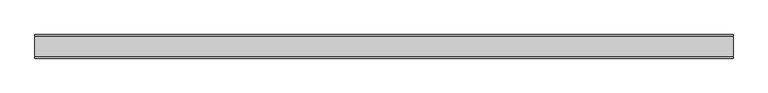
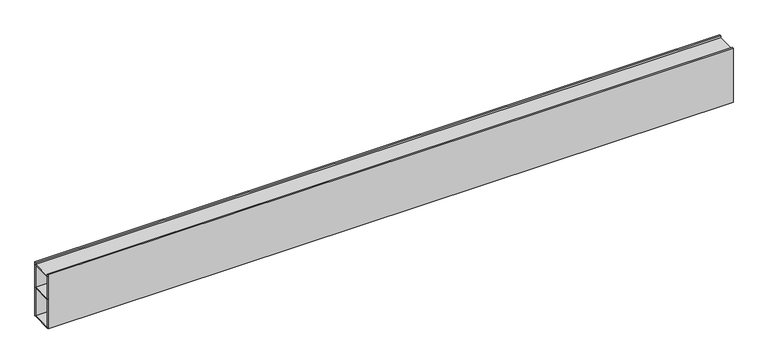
"""IFC4 building model written with IfcOpenShell, lengths in millimetres: light fixture geometry, Lighting-Recessed-Betacalco-Block-Straight : BLKR-DT1-PW01-TR01-SL04-EP01-LP020-CR80-CTA40."""

import ifcopenshell
import ifcopenshell.guid

model = None  # the IFC model being written
_history = None  # IfcOwnerHistory: only IFC2X3 demands one
_inside = {}  # id of a spatial element -> (the spatial element, [elements in it])
_under = {}  # id of a project, library or spatial element -> (it, [spatial elements below it])
_declared = {}  # id of a project -> (the project, [libraries it declares])
_typed = {}  # id of a type object -> (the type object, [elements of that type])
_made_of = {}  # id of a material, layer set ... -> (it, [elements and type objects made of it])


def new_model(schema):
    """Start an empty IFC model of exactly this schema.

    Asked for "IFC4X3", IfcOpenShell would pick the latest addendum, in which some entities
    have other attributes; the version numbers below select the first issue.
    IFC2X3 requires an IfcOwnerHistory on every rooted entity: one is made here for all.
    """
    global model, _history
    if schema == "IFC4X3":
        model = ifcopenshell.file(schema_version=(4, 3, 0, 0))
    else:
        model = ifcopenshell.file(schema=schema)
    _inside.clear()
    _under.clear()
    _declared.clear()
    _typed.clear()
    _made_of.clear()
    _history = None
    if model.schema == "IFC2X3":
        org = make("IfcOrganization", Name="unknown")
        user = make(
            "IfcPersonAndOrganization",
            ThePerson=make("IfcPerson", FamilyName="unknown"),
            TheOrganization=org,
        )
        app = make(
            "IfcApplication",
            ApplicationDeveloper=org,
            Version="unknown",
            ApplicationFullName="unknown",
            ApplicationIdentifier="unknown",
        )
        _history = make(
            "IfcOwnerHistory",
            OwningUser=user,
            OwningApplication=app,
            ChangeAction="ADDED",
            CreationDate=0,
        )
    return model


def make(cls, **values):
    """One entity of the class cls with the attributes given. An attribute that is None is left unset."""
    return model.create_entity(
        cls, **{name: value for name, value in values.items() if value is not None}
    )


def rooted(cls, **values):
    """An entity with a GlobalId (a new one), such as an element, a storey or a relation."""
    return make(cls, GlobalId=ifcopenshell.guid.new(), OwnerHistory=_history, **values)


def si_unit(unit_type, name, prefix=None):
    """IfcSIUnit, for example si_unit("LENGTHUNIT", "METRE", prefix="MILLI")."""
    return make("IfcSIUnit", UnitType=unit_type, Prefix=prefix, Name=name)


def assignment(units):
    """IfcUnitAssignment: the units of a project."""
    return None if units is None else make("IfcUnitAssignment", Units=units)


def point(xyz):
    """IfcCartesianPoint."""
    return None if xyz is None else make("IfcCartesianPoint", Coordinates=xyz)


def direction(xyz):
    """IfcDirection."""
    return None if xyz is None else make("IfcDirection", DirectionRatios=xyz)


def frame(location, z_axis=None, x_axis=None):
    """IfcAxis2Placement3D, a coordinate frame: its origin and axes. An axis left out is left unset."""
    return make(
        "IfcAxis2Placement3D",
        Location=point(location),
        Axis=direction(z_axis),
        RefDirection=direction(x_axis),
    )


def origin():
    """The frame at (0, 0, 0) with its axes left unset."""
    return frame((0.0, 0.0, 0.0))


def place(relative_to, where):
    """IfcLocalPlacement: puts the frame where relative to a parent placement (None: the world)."""
    return make(
        "IfcLocalPlacement", PlacementRelTo=relative_to, RelativePlacement=where
    )


def context(
    kind, dimensions, precision=None, world=None, true_north=None, identifier=None
):
    """IfcGeometricRepresentationContext, for example the 3D "Model" context."""
    return make(
        "IfcGeometricRepresentationContext",
        ContextIdentifier=identifier,
        ContextType=kind,
        CoordinateSpaceDimension=dimensions,
        Precision=precision,
        WorldCoordinateSystem=world,
        TrueNorth=true_north,
    )


def project(units=None, contexts=None):
    """IfcProject with its units and contexts."""
    return rooted(
        "IfcProject",
        Name="project",
        RepresentationContexts=contexts,
        UnitsInContext=assignment(units),
    )


def spatial(cls, under=None, at=None, **own):
    """A site, building, storey or space (cls), placed at a placement, below another one or the project."""
    s = rooted(cls, ObjectPlacement=at, **own)
    if under is not None:
        _under.setdefault(under.id(), (under, []))[1].append(s)
    return s


def polyline(points):
    """IfcPolyline through the points."""
    return make("IfcPolyline", Points=[point(p) for p in points])


def outline(outer, holes=None, kind="AREA"):
    """IfcArbitraryClosedProfileDef: a profile drawn as a closed curve; with holes, ...WithVoids."""
    if holes is None:
        return make("IfcArbitraryClosedProfileDef", ProfileType=kind, OuterCurve=outer)
    return make(
        "IfcArbitraryProfileDefWithVoids",
        ProfileType=kind,
        OuterCurve=outer,
        InnerCurves=holes,
    )


def extrude(swept, where, along, depth):
    """IfcExtrudedAreaSolid: the profile swept, set in the frame where, extruded along a direction by depth."""
    return make(
        "IfcExtrudedAreaSolid",
        SweptArea=swept,
        Position=where,
        ExtrudedDirection=direction(along),
        Depth=depth,
    )


def shape(context_of_items, identifier, shape_type, items):
    """IfcShapeRepresentation: the items that make up one representation, for example the "Body"."""
    return make(
        "IfcShapeRepresentation",
        ContextOfItems=context_of_items,
        RepresentationIdentifier=identifier,
        RepresentationType=shape_type,
        Items=items,
    )


def source(mapping_origin, context_of_items, identifier, shape_type, items):
    """IfcRepresentationMap: a shape defined once, which mapped items show again and again."""
    return make(
        "IfcRepresentationMap",
        MappingOrigin=mapping_origin,
        MappedRepresentation=shape(context_of_items, identifier, shape_type, items),
    )


def transform(
    local_origin,
    x_axis=None,
    y_axis=None,
    z_axis=None,
    scale=None,
    scale2=None,
    scale3=None,
    uniform=True,
):
    """IfcCartesianTransformationOperator3D, or its non-uniform kind. x_axis, y_axis, z_axis: its Axis1, 2, 3."""
    if uniform:
        return make(
            "IfcCartesianTransformationOperator3D",
            Axis1=direction(x_axis),
            Axis2=direction(y_axis),
            LocalOrigin=point(local_origin),
            Scale=scale,
            Axis3=direction(z_axis),
        )
    return make(
        "IfcCartesianTransformationOperator3DnonUniform",
        Axis1=direction(x_axis),
        Axis2=direction(y_axis),
        LocalOrigin=point(local_origin),
        Scale=scale,
        Axis3=direction(z_axis),
        Scale2=scale2,
        Scale3=scale3,
    )


def mapped(mapping_source, mapping_target):
    """IfcMappedItem: shows the shape of a source again, moved by a transform."""
    return make(
        "IfcMappedItem", MappingSource=mapping_source, MappingTarget=mapping_target
    )


def made_of(thing, what):
    """Note that an element or type object is made of a material, layer set ...; save() writes the relation."""
    if what is not None:
        _made_of.setdefault(what.id(), (what, []))[1].append(thing)
    return thing


def element(
    cls,
    number,
    at=None,
    inside=None,
    cuts=None,
    type_object=None,
    material=None,
    context=None,
    identifier="Body",
    shape_type=None,
    held_by="IfcProductDefinitionShape",
    body=None,
    shapes=None,
    **own,
):
    """One element of the class cls, such as IfcWall. Its Tag is "e" and its number.

    at: its placement. inside: the storey or other place that contains it. cuts: it is an
    opening in that element (IfcRelVoidsElement). A single representation is given by context,
    identifier, shape_type and body (its items); several are given by shapes. held_by: the class
    of the entity that holds the representations. save() writes the other relations.
    """
    e = rooted(cls, Tag="e%d" % number, ObjectPlacement=at, **own)
    if body is not None:
        shapes = [shape(context, identifier, shape_type, body)]
    if shapes is not None:
        e.Representation = make(held_by, Representations=shapes)
    if inside is not None:
        _inside.setdefault(inside.id(), (inside, []))[1].append(e)
    if cuts is not None:
        rooted(
            "IfcRelVoidsElement", RelatingBuildingElement=cuts, RelatedOpeningElement=e
        )
    if type_object is not None:
        _typed.setdefault(type_object.id(), (type_object, []))[1].append(e)
    return made_of(e, material)


def aggregate(whole, parts):
    """IfcRelAggregates: a whole, such as a stair, and the parts it consists of."""
    return rooted("IfcRelAggregates", RelatingObject=whole, RelatedObjects=parts)


def save(model, path):
    """Write the relations noted so far, then the file.

    IfcRelAggregates (storeys below a building ...), IfcRelContainedInSpatialStructure (elements
    in a storey), IfcRelDefinesByType, IfcRelAssociatesMaterial and IfcRelDeclares: one each for
    every whole, place, type object, material and project.
    """
    for whole, parts in _under.values():
        aggregate(whole, parts)
    for where, things in _inside.values():
        rooted(
            "IfcRelContainedInSpatialStructure",
            RelatedElements=things,
            RelatingStructure=where,
        )
    for kind, things in _typed.values():
        rooted("IfcRelDefinesByType", RelatedObjects=things, RelatingType=kind)
    for what, things in _made_of.values():
        rooted("IfcRelAssociatesMaterial", RelatedObjects=things, RelatingMaterial=what)
    for by, libraries in _declared.values():
        rooted("IfcRelDeclares", RelatingContext=by, RelatedDefinitions=libraries)
    model.write(path)


def light_fixture_d5cdfcf7(model_context):
    return source(origin(), model_context, "Body", "SweptSolid", [
        extrude(outline(polyline([(609.6, 18.0975), (609.6, -18.0975), (-609.6, -18.0975), (-609.6, 18.0975), (609.6, 18.0975)])), frame((0.0, 0.0, -5.2904412), z_axis=(0.0, 0.0, 1.0), x_axis=(1.0, 0.0, 0.0)), (0.0, 0.0, 1.0), 1.5875),
        extrude(outline(polyline([(609.6, 18.0975), (609.6, -18.0975), (-609.6, -18.0975), (-609.6, 18.0975), (609.6, 18.0975)])), frame((0.0, 0.0, -47.912087), z_axis=(0.0, 0.0, 1.0), x_axis=(1.0, 0.0, 0.0)), (0.0, 0.0, 1.0), 1.5875),
        extrude(outline(polyline([(609.6, 18.0975), (609.6, -18.0975), (-609.6, -18.0975), (-609.6, 18.0975), (609.6, 18.0975)])), frame((0.0, 0.0, -101.6), z_axis=(0.0, 0.0, 1.0), x_axis=(1.0, 0.0, 0.0)), (0.0, 0.0, 1.0), 1.5875),
        extrude(outline(polyline([(609.6, 20.6375), (609.6, 18.0975), (-609.6, 18.0975), (-609.6, 20.6375), (609.6, 20.6375)])), frame((0.0, 0.0, -101.6), z_axis=(0.0, 0.0, 1.0), x_axis=(1.0, 0.0, 0.0)), (0.0, 0.0, 1.0), 101.6),
        extrude(outline(polyline([(609.6, -18.0975), (609.6, -20.6375), (-609.6, -20.6375), (-609.6, -18.0975), (609.6, -18.0975)])), frame((0.0, 0.0, -101.6), z_axis=(0.0, 0.0, 1.0), x_axis=(1.0, 0.0, 0.0)), (0.0, 0.0, 1.0), 101.6),
    ])


if __name__ == "__main__":
    model = new_model("IFC4")
    model_context = context("Model", 3, world=origin())
    ifc_project = project(units=[si_unit("LENGTHUNIT", "METRE", prefix="MILLI")], contexts=[model_context])
    site = spatial("IfcSite", under=ifc_project)
    building = spatial("IfcBuilding", under=site)
    placement = place(None, origin())
    light_fixture_shape = light_fixture_d5cdfcf7(model_context)
    element("IfcLightFixture", 1, ObjectType="Lighting-Recessed-Betacalco-Block-Straight : BLKR-DT1-PW01-TR01-SL04-EP01-LP020-CR80-CTA40", at=placement, inside=building, context=model_context, shape_type="MappedRepresentation", body=[
        mapped(light_fixture_shape, transform((0.0, 0.0, 0.0), x_axis=(1.0, 0.0, 0.0), y_axis=(0.0, 1.0, 0.0), z_axis=(0.0, 0.0, 1.0))),
    ])
    save(model, "model.ifc")
